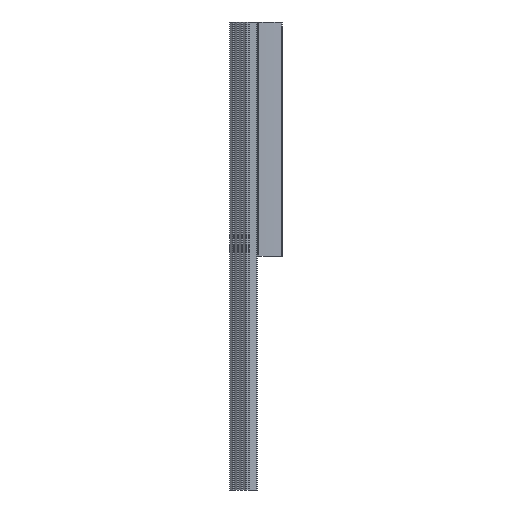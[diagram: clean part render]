
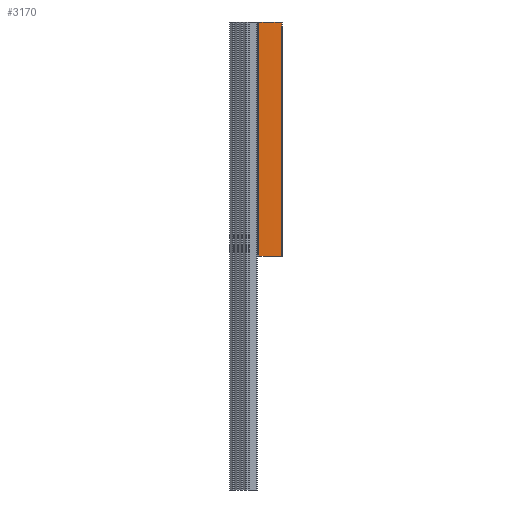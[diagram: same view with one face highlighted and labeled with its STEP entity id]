
A CAD part, left-side view. The second image highlights one B-rep face of the part: STEP entity #3170.
In plain terms, the highlighted cylindrical face has radius 247.958 mm (diameter 495.916 mm), a partial arc.
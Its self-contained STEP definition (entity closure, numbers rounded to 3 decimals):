
#81 = CARTESIAN_POINT ( 'NONE',  ( -9.831, 0., -2.657 ) ) ;
#222 = VERTEX_POINT ( 'NONE', #3437 ) ;
#263 = CARTESIAN_POINT ( 'NONE',  ( 238.127, 0., -2.203 ) ) ;
#459 = FACE_OUTER_BOUND ( 'NONE', #2192, .T. ) ;
#637 = DIRECTION ( 'NONE',  ( 0., 0., 1. ) ) ;
#883 = VECTOR ( 'NONE', #4076, 1000. ) ;
#962 = CARTESIAN_POINT ( 'NONE',  ( 238.127, -100., -2.203 ) ) ;
#1067 = CARTESIAN_POINT ( 'NONE',  ( -9.831, -100., -2.657 ) ) ;
#1073 = DIRECTION ( 'NONE',  ( 0., 1., 0. ) ) ;
#1092 = CARTESIAN_POINT ( 'NONE',  ( -9.831, -100., -2.657 ) ) ;
#1107 = DIRECTION ( 'NONE',  ( 0., 1., 0. ) ) ;
#1190 = CIRCLE ( 'NONE', #3099, 247.958 ) ;
#1378 = ORIENTED_EDGE ( 'NONE', *, *, #3973, .T. ) ;
#1606 = DIRECTION ( 'NONE',  ( 0., 1., 0. ) ) ;
#1723 = VECTOR ( 'NONE', #1107, 1000. ) ;
#2192 = EDGE_LOOP ( 'NONE', ( #2261, #2487, #3219, #1378 ) ) ;
#2261 = ORIENTED_EDGE ( 'NONE', *, *, #3431, .F. ) ;
#2328 = VERTEX_POINT ( 'NONE', #1067 ) ;
#2487 = ORIENTED_EDGE ( 'NONE', *, *, #3014, .F. ) ;
#2522 = LINE ( 'NONE', #1092, #1723 ) ;
#2544 = VERTEX_POINT ( 'NONE', #4693 ) ;
#2948 = CYLINDRICAL_SURFACE ( 'NONE', #3957, 247.958 ) ;
#3014 = EDGE_CURVE ( 'NONE', #2328, #3140, #2522, .T. ) ;
#3099 = AXIS2_PLACEMENT_3D ( 'NONE', #263, #1073, #637 ) ;
#3136 = AXIS2_PLACEMENT_3D ( 'NONE', #962, #3986, #3619 ) ;
#3140 = VERTEX_POINT ( 'NONE', #81 ) ;
#3170 = ADVANCED_FACE ( 'NONE', ( #459 ), #2948, .T. ) ;
#3181 = LINE ( 'NONE', #4874, #883 ) ;
#3215 = DIRECTION ( 'NONE',  ( 0., 0., 1. ) ) ;
#3219 = ORIENTED_EDGE ( 'NONE', *, *, #4337, .T. ) ;
#3360 = CIRCLE ( 'NONE', #3136, 247.958 ) ;
#3431 = EDGE_CURVE ( 'NONE', #3140, #2544, #1190, .T. ) ;
#3437 = CARTESIAN_POINT ( 'NONE',  ( -9.657, -100., 7.105 ) ) ;
#3619 = DIRECTION ( 'NONE',  ( 0., 0., 1. ) ) ;
#3929 = CARTESIAN_POINT ( 'NONE',  ( 238.127, -100., -2.203 ) ) ;
#3957 = AXIS2_PLACEMENT_3D ( 'NONE', #3929, #1606, #3215 ) ;
#3973 = EDGE_CURVE ( 'NONE', #222, #2544, #3181, .T. ) ;
#3986 = DIRECTION ( 'NONE',  ( 0., 1., 0. ) ) ;
#4076 = DIRECTION ( 'NONE',  ( 0., 1., 0. ) ) ;
#4337 = EDGE_CURVE ( 'NONE', #2328, #222, #3360, .T. ) ;
#4693 = CARTESIAN_POINT ( 'NONE',  ( -9.657, 0., 7.105 ) ) ;
#4874 = CARTESIAN_POINT ( 'NONE',  ( -9.657, -100., 7.105 ) ) ;
